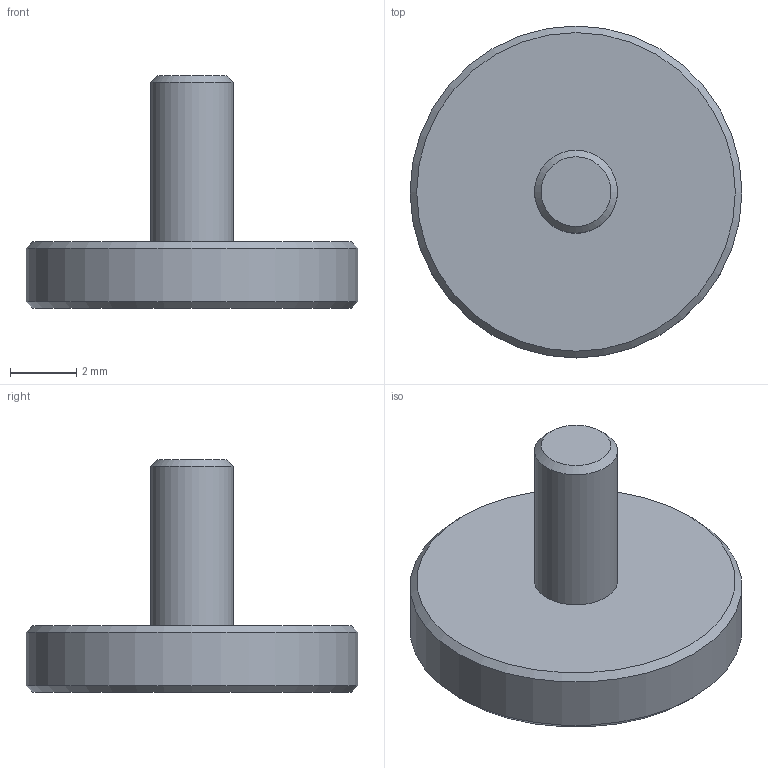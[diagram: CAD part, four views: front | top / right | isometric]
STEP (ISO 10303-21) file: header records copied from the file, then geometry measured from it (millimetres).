
FILE_DESCRIPTION( ( 'STEP AP214' ), '1' );
FILE_NAME( 'N:/Engineering/CAD_Solid/LVDT/Zubehör/Tastkopf_02.stp', '2011-12-12T13:58:47', ( ' ' ), ( ' ' ), 'XStep 1.0', ' ', ' ' );
FILE_SCHEMA( ( 'CONFIG_CONTROL_DESIGN) ( )' ) );
Length unit declared in the file: metre
Products named in the file (1): 1
Bounding box: 10 x 10 x 7 mm (x, y, z)
Volume: 180.2 mm3; surface area: 250.7 mm2
Topology: 1 solids, 1 shells, 8 faces, 13 edges, 8 vertices
Faces by surface type: cone 3, plane 3, cylinder 2
Full cylindrical faces by diameter (mm): 2.5 x1, 10 x1
Entity records: 234 total; most frequent: DIRECTION 32, CARTESIAN_POINT 23, AXIS2_PLACEMENT_3D 16, EDGE_LOOP 14, ORIENTED_EDGE 14, FACE_OUTER_BOUND 10, STYLED_ITEM 8, PRESENTATION_STYLE_ASSIGNMENT 8
